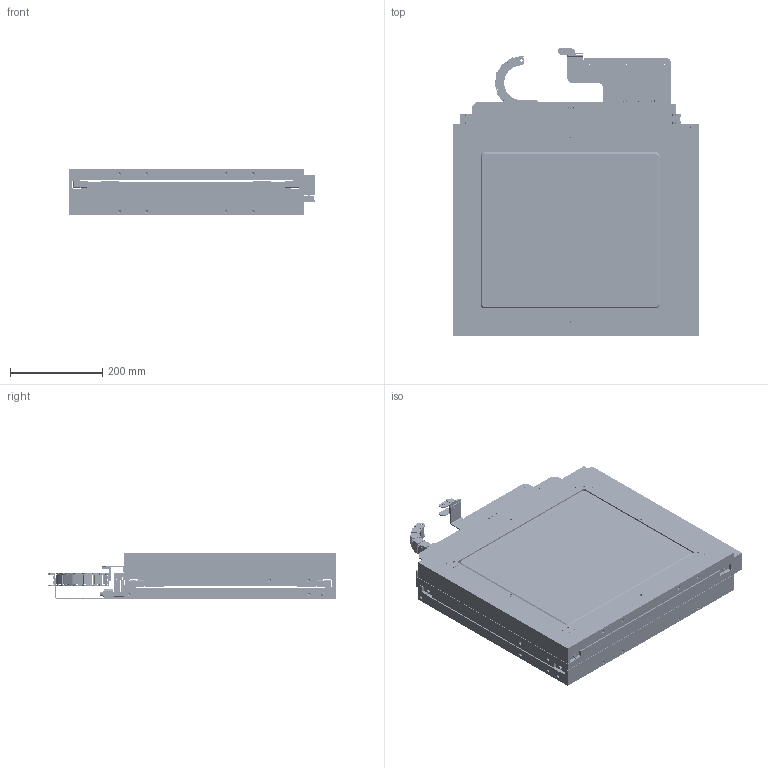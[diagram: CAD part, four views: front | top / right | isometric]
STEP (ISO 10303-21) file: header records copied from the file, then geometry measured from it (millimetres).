
FILE_DESCRIPTION(/* description */ (''),/* implementation_level */ '2;1');
FILE_NAME(/* name */ 'H:\Inventor\Katalog\3D-CAD-Modelle\STP neu\KT9-NLxx-CAD.stp',/* time_stamp */ '2024-01-18T07:30:38+01:00',/* author */ ('KON3'),/* organization */ (''),/* preprocessor_version */ 'ST-DEVELOPER v18',/* originating_system */ 'Autodesk Inventor 2020',/* authorisation */ '');
FILE_SCHEMA (('AUTOMOTIVE_DESIGN { 1 0 10303 214 3 1 1 }'));
Products named in the file (5): KT9-NLxx-CAD; KT9-NLxx_unten; KT9-NLxx_mitte; KT9-NLMx_oben; KT9.82
Assembly tree (4 placements, depth 2):
  KT9-NLxx-CAD
    KT9-NLxx_unten
    KT9-NLxx_mitte
    KT9-NLMx_oben
    KT9.82
Bounding box: 535 x 626.65 x 100 mm (x, y, z)
Volume: 19242858.4 mm3; surface area: 2602246.6 mm2
Topology: 122 solids, 122 shells, 6776 faces, 17443 edges, 10905 vertices
Faces by surface type: plane 3440, cylinder 2057, cone 531, sphere 512, bspline 140, torus 96
Full cylindrical faces by diameter (mm): 1 x60, 1.5 x2, 2.013 x6, 2.156 x4, 2.459 x26, 2.5 x22, 2.9 x4, 3 x8, 3.2 x23, 3.242 x9, 3.3 x46, 3.4 x10, 4 x67, 4.134 x57, 4.5 x75, 4.917 x88, 5 x10, 5.5 x4, 5.8 x4, 6 x40, 6.5 x30, 6.647 x16, 7 x42, 8 x20, 9.5 x92, 10 x16, 81 x1
Entity records: 211613 total; most frequent: CARTESIAN_POINT 38445, DIRECTION 35660, ORIENTED_EDGE 33534, EDGE_CURVE 16767, AXIS2_PLACEMENT_3D 12740, VERTEX_POINT 10905, LINE 10180, VECTOR 10180
